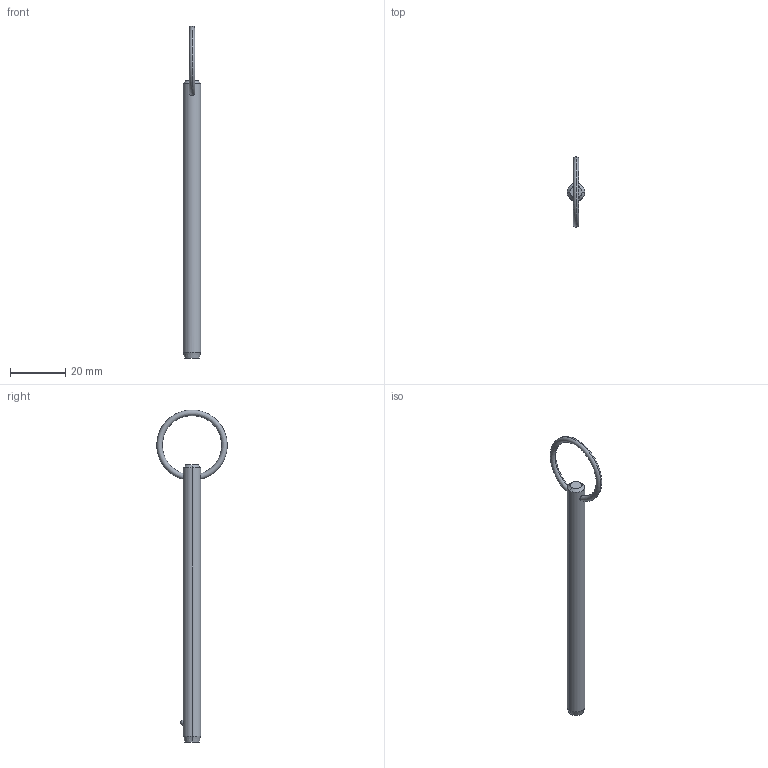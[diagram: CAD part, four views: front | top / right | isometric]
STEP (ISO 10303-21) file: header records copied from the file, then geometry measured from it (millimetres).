
FILE_DESCRIPTION (( 'STEP AP203' ), '1' );
FILE_NAME ('P1250.025-340.step', '2019-07-29T19:45:24', ( '' ), ( '' ), 'SwSTEP 2.0', 'SolidWorks 2017', '' );
FILE_SCHEMA (( 'CONFIG_CONTROL_DESIGN' ));
Length unit declared in the file: millimetre
Products named in the file (1): P1250.025-340
Bounding box: 6.35 x 25.38 x 119.72 mm (x, y, z)
Volume: 3357.4 mm3; surface area: 2450.3 mm2
Topology: 1 solids, 1 shells, 12 faces, 28 edges, 17 vertices
Faces by surface type: cone 4, torus 2, sphere 2, cylinder 2, plane 2
Entity records: 481 total; most frequent: CARTESIAN_POINT 148, DIRECTION 56, ORIENTED_EDGE 48, AXIS2_PLACEMENT_3D 25, EDGE_CURVE 24, VERTEX_POINT 15, EDGE_LOOP 15, FACE_OUTER_BOUND 12
